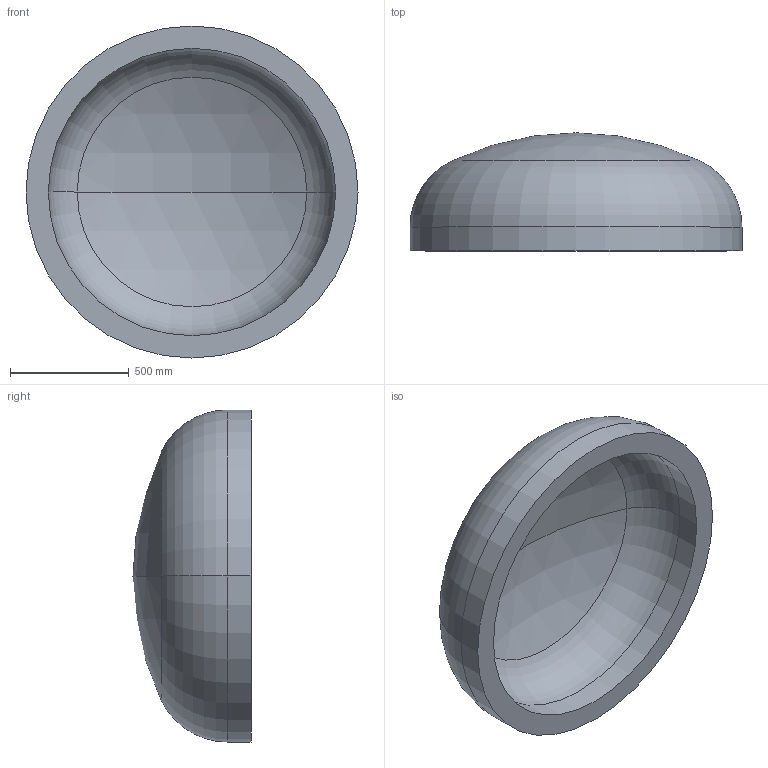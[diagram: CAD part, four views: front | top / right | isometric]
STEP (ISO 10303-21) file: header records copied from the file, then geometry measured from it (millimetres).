
FILE_DESCRIPTION (( 'STEP AP203' ), '1' );
FILE_NAME ('DIN 28013 Korbbogenform_-_Boden DIN 28013 - 1400 x 100 - I - s=94.step', '2016-07-01T10:28:04', ( '' ), ( '' ), 'SwSTEP 2.0', 'SolidWorks 2013', '' );
FILE_SCHEMA (( 'CONFIG_CONTROL_DESIGN' ));
Length unit declared in the file: millimetre
Products named in the file (1): DIN 28013 Korbbogenform_-_Boden DIN 28013 - 1400 x 100 - I - s=94
Bounding box: 1400 x 497.82 x 1400 mm (x, y, z)
Volume: 222520473.3 mm3; surface area: 5138657.7 mm2
Topology: 1 solids, 1 shells, 13 faces, 24 edges, 14 vertices
Faces by surface type: torus 4, cylinder 4, sphere 4, plane 1
Entity records: 407 total; most frequent: DIRECTION 72, CARTESIAN_POINT 52, ORIENTED_EDGE 48, AXIS2_PLACEMENT_3D 34, EDGE_CURVE 24, CIRCLE 20, EDGE_LOOP 14, VERTEX_POINT 14
